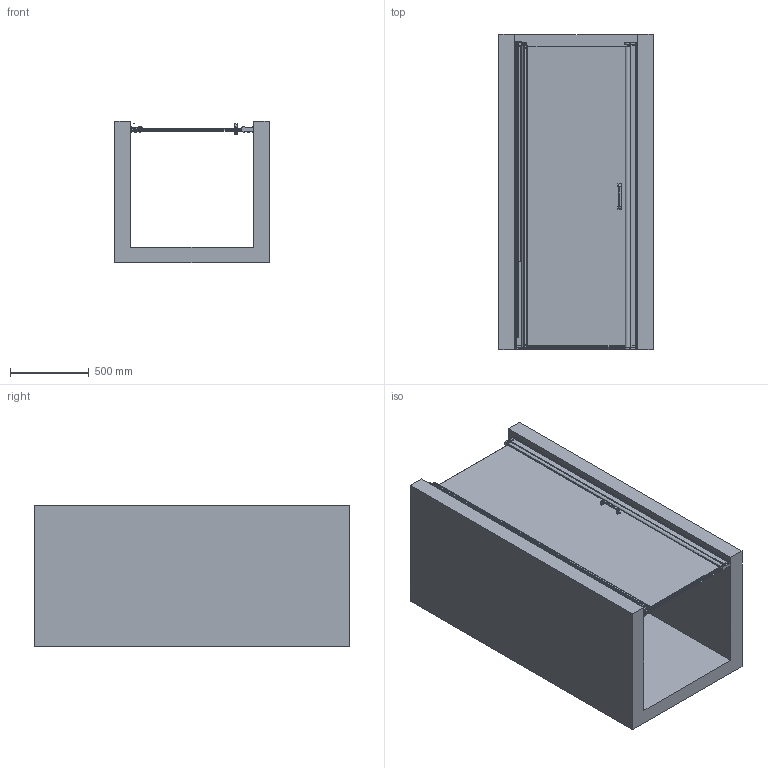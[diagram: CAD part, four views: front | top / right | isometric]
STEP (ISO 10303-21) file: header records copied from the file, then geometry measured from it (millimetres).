
FILE_DESCRIPTION (( 'STEP AP203' ), '1' );
FILE_NAME ('A1011D 800X1950 6MM.STEP', '2019-09-10T09:21:19', ( '微软用户' ), ( '微软中国' ), 'SwSTEP 2.0', 'SolidWorks 2014', '' );
FILE_SCHEMA (( 'CONFIG_CONTROL_DESIGN' ));
Length unit declared in the file: millimetre
Products named in the file (34): ZHIZHU_1873; ST40X30; ZHUANZHOULV_1; 嶺忒釱; l-120 1922; 蹟佪裔簽; XINHEJINZHUANZHOUXIN_1; cross recessed small pan head screws gb_GB_CROSS_SCREWS_TYPE3 M4X30-30-S; l-119 1911; 蹟佪諶簽; XINHEJINZHUANZHOUXINPEITAO_1; 03036ㄗH5A嶺忒ㄘ; 9.6 馱趼棠沭 1911; ST4X12; XINHEJINXIAZUO_1; ǽ; L-208 1950; 壩梠蝶薜; XINHEJINXIAZHOUXIN_1; 9.6 馱趼棠沭 1922; 棠沭臏第釱; 禱沭 1373MM; XINHEJINSHANGZUO_1; A1011D 800X1950 6MM; 裔簽; TAOKUANG; ST4X16-PINGTOU; ST42X25_1; 嶺忒梟1; BOLI; Z-6L; 菁窒結阨沭; 嶺忒梟2; danbiantiao 1860MM
Assembly tree (67 placements, depth 3):
  A1011D 800X1950 6MM
    ZHUANZHOULV_1
    XINHEJINZHUANZHOUXIN_1
    XINHEJINZHUANZHOUXINPEITAO_1
    XINHEJINXIAZUO_1
    XINHEJINXIAZHOUXIN_1
    XINHEJINSHANGZUO_1
    ST42X25_1  x2
    菁窒結阨沭
    ST40X30  x4
    蹟佪裔簽  x6
    蹟佪諶簽  x6
    ST4X12  x6
    壩梠蝶薜  x4
    禱沭 1373MM  x3
    ST4X16-PINGTOU  x4
    Z-6L
    ZHIZHU_1873
    TAOKUANG
    BOLI
    danbiantiao 1860MM  x2
    l-120 1922
    l-119 1911
    9.6 馱趼棠沭 1911
    L-208 1950
    棠沭臏第釱  x2
    03036ㄗH5A嶺忒ㄘ
      裔簽  x2
      嶺忒梟1
      嶺忒梟2
      嶺忒釱  x4
      cross recessed small pan head screws gb_GB_CROSS_SCREWS_TYPE3 M4X30-30-S  x2
    ǽ
    9.6 馱趼棠沭 1922
Bounding box: 980 x 2000.09 x 900 mm (x, y, z)
Volume: 526323935 mm3; surface area: 18342773.6 mm2
Topology: 60 solids, 72 shells, 4235 faces, 10483 edges, 6462 vertices
Faces by surface type: plane 1451, cylinder 1437, cone 1110, bspline 203, torus 30, sphere 4
Entity records: 83841 total; most frequent: CARTESIAN_POINT 23906, DIRECTION 11743, ORIENTED_EDGE 11580, EDGE_CURVE 5792, AXIS2_PLACEMENT_3D 4200, VERTEX_POINT 3625, VECTOR 3343, LINE 3343
